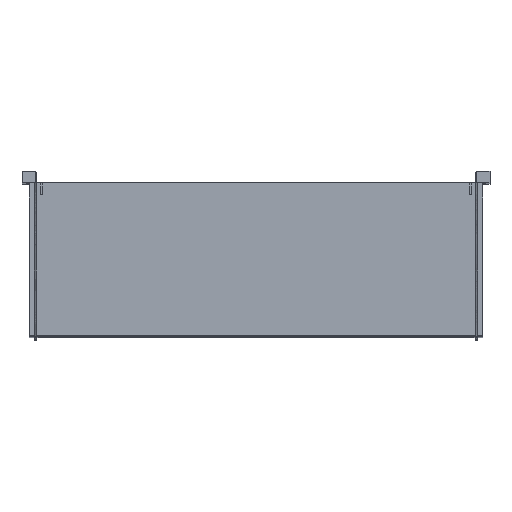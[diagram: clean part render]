
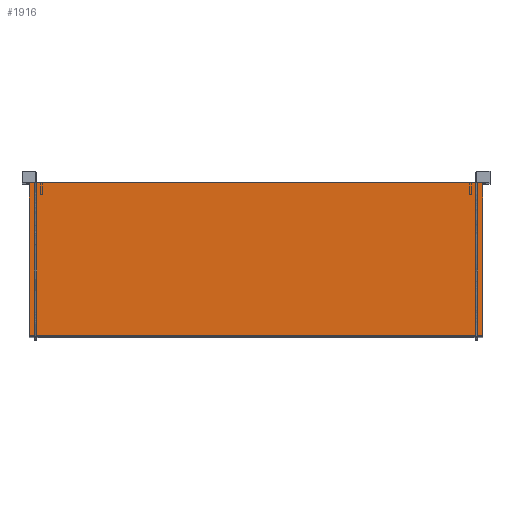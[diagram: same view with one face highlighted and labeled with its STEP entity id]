
A CAD part, top view. The second image highlights one B-rep face of the part: STEP entity #1916.
In plain terms, the highlighted planar face has unit normal (0, 0, 1).
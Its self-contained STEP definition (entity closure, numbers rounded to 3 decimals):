
#1063=B_SPLINE_CURVE_WITH_KNOTS('',1,(#27587,#27588),.UNSPECIFIED.,.F.,
 .F.,(2,2),(0.,270.),.UNSPECIFIED.);
#1067=B_SPLINE_CURVE_WITH_KNOTS('',1,(#27595,#27596),.UNSPECIFIED.,.F.,
 .F.,(2,2),(0.,800.),.UNSPECIFIED.);
#1069=B_SPLINE_CURVE_WITH_KNOTS('',1,(#27599,#27600),.UNSPECIFIED.,.F.,
 .F.,(2,2),(0.,270.),.UNSPECIFIED.);
#1072=B_SPLINE_CURVE_WITH_KNOTS('',1,(#27605,#27606),.UNSPECIFIED.,.F.,
 .F.,(2,2),(0.,800.),.UNSPECIFIED.);
#1916=ADVANCED_FACE('',(#2758),#12108,.T.);
#2758=FACE_OUTER_BOUND('',#3877,.T.);
#3877=EDGE_LOOP('',(#7385,#7386,#7387,#7388));
#7385=ORIENTED_EDGE('',*,*,#9385,.F.);
#7386=ORIENTED_EDGE('',*,*,#9382,.F.);
#7387=ORIENTED_EDGE('',*,*,#9380,.F.);
#7388=ORIENTED_EDGE('',*,*,#9376,.F.);
#9376=EDGE_CURVE('',#11786,#11787,#1063,.T.);
#9380=EDGE_CURVE('',#11787,#11788,#1067,.T.);
#9382=EDGE_CURVE('',#11788,#11791,#1069,.T.);
#9385=EDGE_CURVE('',#11791,#11786,#1072,.T.);
#11786=VERTEX_POINT('',#27493);
#11787=VERTEX_POINT('',#27494);
#11788=VERTEX_POINT('',#27495);
#11791=VERTEX_POINT('',#27498);
#12108=PLANE('',#14312);
#14312=AXIS2_PLACEMENT_3D('',#27459,#15113,$);
#15113=DIRECTION('',(0.,0.,1.));
#27459=CARTESIAN_POINT('',(480.012,27.012,1776.));
#27493=CARTESIAN_POINT('',(-400.,-270.,1776.));
#27494=CARTESIAN_POINT('',(-400.,0.,1776.));
#27495=CARTESIAN_POINT('',(400.,0.,1776.));
#27498=CARTESIAN_POINT('',(400.,-270.,1776.));
#27587=CARTESIAN_POINT('',(-400.,-270.,1776.));
#27588=CARTESIAN_POINT('',(-400.,0.,1776.));
#27595=CARTESIAN_POINT('',(-400.,0.,1776.));
#27596=CARTESIAN_POINT('',(400.,0.,1776.));
#27599=CARTESIAN_POINT('',(400.,0.,1776.));
#27600=CARTESIAN_POINT('',(400.,-270.,1776.));
#27605=CARTESIAN_POINT('',(400.,-270.,1776.));
#27606=CARTESIAN_POINT('',(-400.,-270.,1776.));
